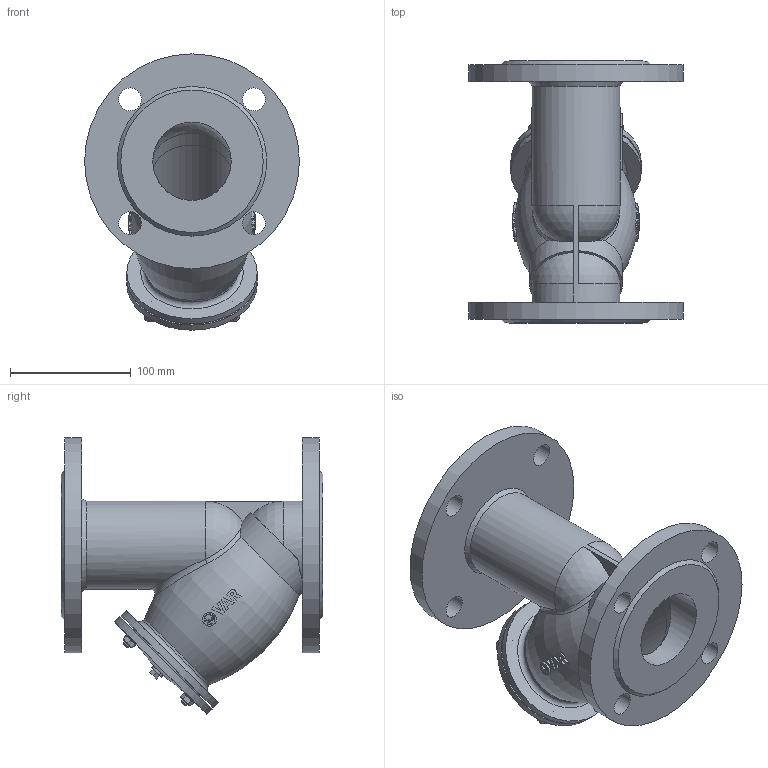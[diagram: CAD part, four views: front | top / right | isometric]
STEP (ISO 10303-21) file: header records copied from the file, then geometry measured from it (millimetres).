
FILE_DESCRIPTION(('STEP AP203'), '1');
FILE_NAME('VAR STRAINER ôèëüòð-ãðÿçåóëîâèòåëü', '', ('UNSPECIFIED'), ('UNSPECIFIED'), 'C3D Converter', 'C3D Toolkit', '');
FILE_SCHEMA(('CONFIG_CONTROL_DESIGN'));
Length unit declared in the file: millimetre
Assembly tree (17 placements, depth 2):
  (unnamed)
    (unnamed)
    (unnamed)
    (unnamed)  x4
    (unnamed)  x4
    (unnamed)  x4
    (unnamed)
    (unnamed)
    (unnamed)
Bounding box: 178 x 217 x 228.92 mm (x, y, z)
Volume: 1055146.7 mm3; surface area: 323817.5 mm2
Topology: 18 solids, 18 shells, 452 faces, 1125 edges, 740 vertices
Faces by surface type: plane 174, extrusion 150, cylinder 57, cone 31, torus 26, sphere 8, bspline 6
Full cylindrical faces by diameter (mm): 6 x12, 7 x4, 8 x6, 10.8 x4, 11.368 x1, 12 x1, 19 x8, 65 x6, 69 x3, 73 x1, 77 x1, 79 x1, 81 x2, 108 x2, 178 x2
Entity records: 23992 total; most frequent: CARTESIAN_POINT 12731, ORIENTED_EDGE 1856, DIRECTION 1279, EDGE_CURVE 928, VERTEX_POINT 654, B_SPLINE_CURVE_WITH_KNOTS 612, EDGE_LOOP 522, VECTOR 427
